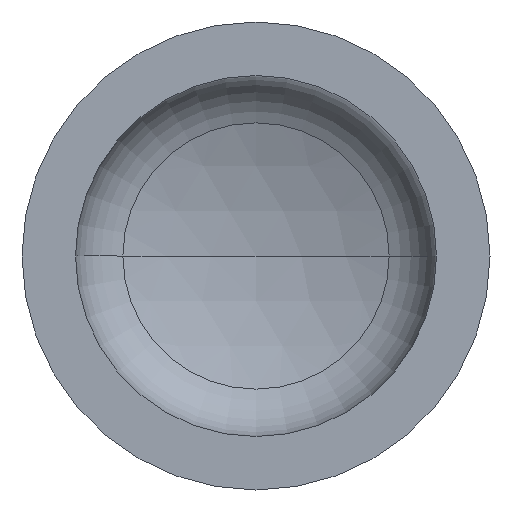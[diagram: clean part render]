
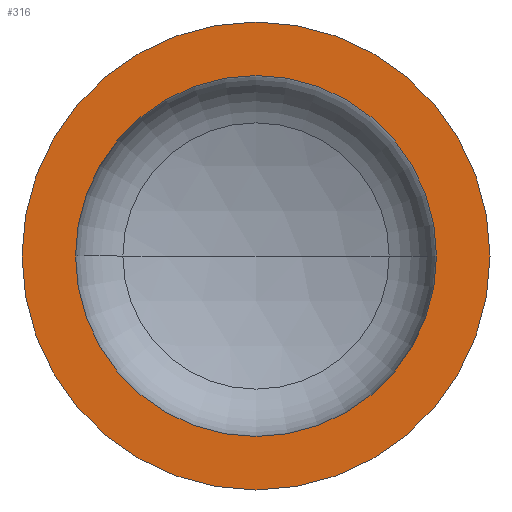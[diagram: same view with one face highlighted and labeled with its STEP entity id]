
A CAD part, front view. The second image highlights one B-rep face of the part: STEP entity #316.
In plain terms, the highlighted planar face has unit normal (0, -1, 0).
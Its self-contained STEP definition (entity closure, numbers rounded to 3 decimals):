
#18 = AXIS2_PLACEMENT_3D ( 'NONE', #395, #398, #300 ) ;
#19 = AXIS2_PLACEMENT_3D ( 'NONE', #242, #178, #332 ) ;
#26 = EDGE_LOOP ( 'NONE', ( #56, #34 ) ) ;
#27 = AXIS2_PLACEMENT_3D ( 'NONE', #183, #180, #43 ) ;
#33 = AXIS2_PLACEMENT_3D ( 'NONE', #236, #231, #185 ) ;
#34 = ORIENTED_EDGE ( 'NONE', *, *, #339, .T. ) ;
#42 = VERTEX_POINT ( 'NONE', #285 ) ;
#43 = DIRECTION ( 'NONE',  ( -1., 0., 0. ) ) ;
#45 = ORIENTED_EDGE ( 'NONE', *, *, #341, .F. ) ;
#51 = CIRCLE ( 'NONE', #19, 350. ) ;
#54 = VERTEX_POINT ( 'NONE', #275 ) ;
#56 = ORIENTED_EDGE ( 'NONE', *, *, #82, .T. ) ;
#72 = EDGE_LOOP ( 'NONE', ( #45, #92 ) ) ;
#79 = AXIS2_PLACEMENT_3D ( 'NONE', #229, #225, #340 ) ;
#82 = EDGE_CURVE ( 'NONE', #54, #104, #237, .T. ) ;
#84 = FACE_BOUND ( 'NONE', #72, .T. ) ;
#92 = ORIENTED_EDGE ( 'NONE', *, *, #302, .F. ) ;
#104 = VERTEX_POINT ( 'NONE', #293 ) ;
#136 = VERTEX_POINT ( 'NONE', #297 ) ;
#178 = DIRECTION ( 'NONE',  ( 0., -1., 0. ) ) ;
#180 = DIRECTION ( 'NONE',  ( 0., 1., 0. ) ) ;
#181 = PLANE ( 'NONE',  #27 ) ;
#183 = CARTESIAN_POINT ( 'NONE',  ( -350., 0., 0. ) ) ;
#185 = DIRECTION ( 'NONE',  ( 1., 0., 0. ) ) ;
#225 = DIRECTION ( 'NONE',  ( 0., -1., 0. ) ) ;
#229 = CARTESIAN_POINT ( 'NONE',  ( 0., 0., 0. ) ) ;
#231 = DIRECTION ( 'NONE',  ( 0., -1., 0. ) ) ;
#236 = CARTESIAN_POINT ( 'NONE',  ( 0., 0., 0. ) ) ;
#237 = CIRCLE ( 'NONE', #79, 350. ) ;
#242 = CARTESIAN_POINT ( 'NONE',  ( 0., 0., 0. ) ) ;
#253 = FACE_OUTER_BOUND ( 'NONE', #26, .T. ) ;
#275 = CARTESIAN_POINT ( 'NONE',  ( 350., 0., 0. ) ) ;
#285 = CARTESIAN_POINT ( 'NONE',  ( -270., 0., 0. ) ) ;
#293 = CARTESIAN_POINT ( 'NONE',  ( -350., 0., 0. ) ) ;
#297 = CARTESIAN_POINT ( 'NONE',  ( 270., 0., 0. ) ) ;
#299 = CIRCLE ( 'NONE', #18, 270. ) ;
#300 = DIRECTION ( 'NONE',  ( 1., 0., 0. ) ) ;
#302 = EDGE_CURVE ( 'NONE', #42, #136, #320, .T. ) ;
#316 = ADVANCED_FACE ( 'NONE', ( #84, #253 ), #181, .F. ) ;
#320 = CIRCLE ( 'NONE', #33, 270. ) ;
#332 = DIRECTION ( 'NONE',  ( 1., 0., 0. ) ) ;
#339 = EDGE_CURVE ( 'NONE', #104, #54, #51, .T. ) ;
#340 = DIRECTION ( 'NONE',  ( 1., 0., 0. ) ) ;
#341 = EDGE_CURVE ( 'NONE', #136, #42, #299, .T. ) ;
#395 = CARTESIAN_POINT ( 'NONE',  ( 0., 0., 0. ) ) ;
#398 = DIRECTION ( 'NONE',  ( 0., -1., 0. ) ) ;
